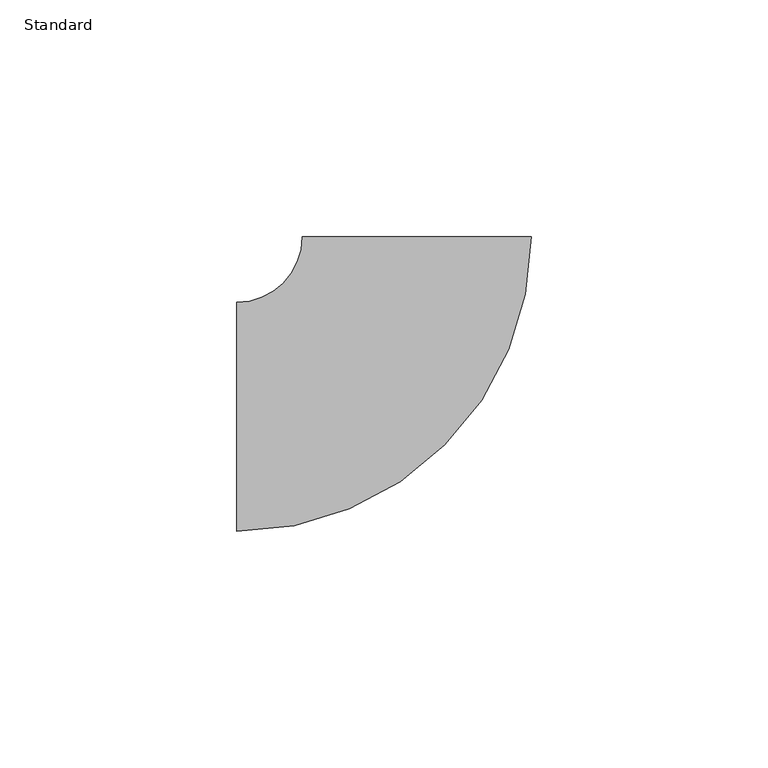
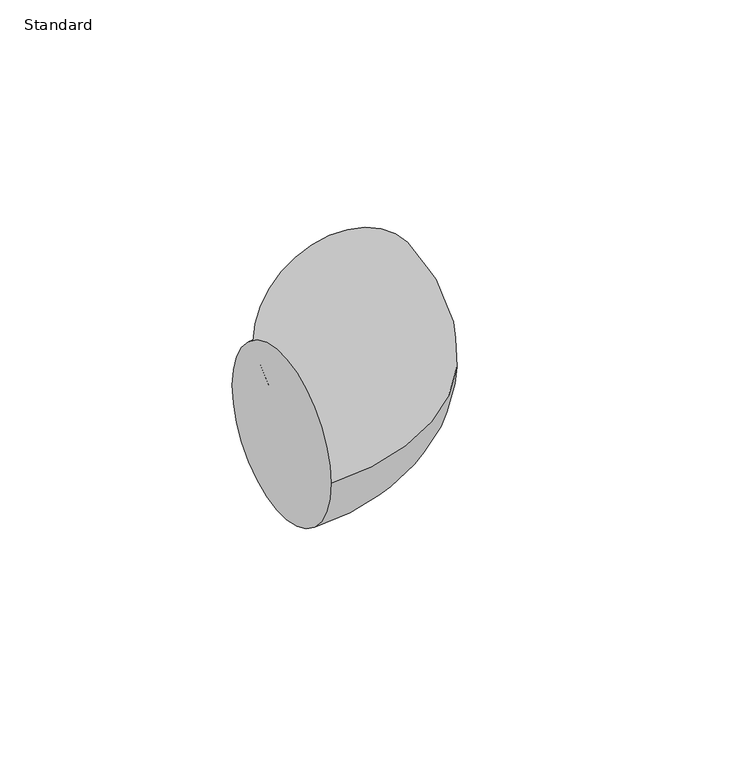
"""IFC4 building model written with IfcOpenShell, lengths in millimetres: pipe fitting geometry, Coude - Générique : Standard."""

from ifc_helpers import new_model, si_unit, point, frame, origin, place, context, project, spatial, circle_curve, ellipse_curve, trimmed, source, transform, mapped, element, save
from ifc_brep_helpers import plane_surface, revolved_surface, advanced_brep


def standard_ebbe6239(model_context):
    return source(origin(), model_context, "Body", "AdvancedBrep", [
        advanced_brep(
        [(-38.0, -24.15, 0.0), (-38.0, 24.15, 0.0), (24.1499939, 38.0000039, 0.0), (-24.1500061, 37.9999961, 0.0)],
        [
            (0, 1, circle_curve(frame((-38.0, 0.0, 0.0), z_axis=(-1.0, 0.0, 0.0), x_axis=(0.0, 1.0, 0.0)), 24.15)),
            (1, 0, circle_curve(frame((-38.0, 0.0, 0.0), z_axis=(-1.0, 0.0, 0.0), x_axis=(0.0, 1.0, 0.0)), 24.15)),
            (2, 3, circle_curve(frame((-6.1e-06, 38.0, 0.0), z_axis=(-1.6170228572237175e-07, 0.9999999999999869, 0.0), x_axis=(-0.9999999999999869, -1.6170228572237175e-07, 0.0)), 24.15)),
            (3, 2, circle_curve(frame((-6.1e-06, 38.0, 0.0), z_axis=(-1.6170228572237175e-07, 0.9999999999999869, 0.0), x_axis=(-0.9999999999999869, -1.6170228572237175e-07, 0.0)), 24.15)),
            (3, 1, circle_curve(frame((-38.0, 37.9999939, 0.0), z_axis=(0.0, 0.0, -1.0), x_axis=(0.0, -1.0, 0.0)), 13.8499939)),
            (0, 2, circle_curve(frame((-38.0, 37.9999939, 0.0), z_axis=(0.0, 0.0, 1.0), x_axis=(0.0, -1.0, 0.0)), 62.1499939)),
        ],
        [
            plane_surface(frame((-38.0, 0.0, 0.0), z_axis=(-1.0, 0.0, 0.0), x_axis=(0.0, 0.0, 1.0))),
            plane_surface(frame((-6.1e-06, 38.0, 0.0), z_axis=(-1.6170228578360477e-07, 0.9999999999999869, 0.0), x_axis=(0.0, 0.0, 1.0))),
            revolved_surface(trimmed(ellipse_curve(frame((-38.0, 0.0, 0.0), z_axis=(-1.0, 0.0, 0.0), x_axis=(0.0, 1.0, 0.0)), 24.15, 24.15), [point((-38.0, -24.15, 0.0))], [point((-38.0, 24.15, 0.0))], True, "CARTESIAN"), (-38.0, 37.9999939, 0.0), (0.0, 0.0, 1.0)),
            revolved_surface(trimmed(ellipse_curve(frame((-38.0, 0.0, 0.0), z_axis=(-1.0, 0.0, 0.0), x_axis=(0.0, 1.0, 0.0)), 24.15, 24.15), [point((-38.0, 24.15, 0.0))], [point((-38.0, -24.15, 0.0))], True, "CARTESIAN"), (-38.0, 37.9999939, 0.0), (0.0, 0.0, 1.0)),
        ],
        [
            (0, [[1, 2]]),
            (1, [[3, 4]]),
            (2, [[5, -1, 6, -4]]),
            (3, [[-6, -2, -5, -3]]),
        ],
    ),
    ])


if __name__ == "__main__":
    model = new_model("IFC4")
    model_context = context("Model", 3, world=origin())
    ifc_project = project(units=[si_unit("LENGTHUNIT", "METRE", prefix="MILLI")], contexts=[model_context])
    site = spatial("IfcSite", under=ifc_project)
    building = spatial("IfcBuilding", under=site)
    placement = place(None, origin())
    standard_shape = standard_ebbe6239(model_context)
    element("IfcPipeFitting", 1, ObjectType="Coude - Générique : Standard", at=placement, inside=building, context=model_context, shape_type="MappedRepresentation", body=[
        mapped(standard_shape, transform((0.0, 0.0, 0.0), x_axis=(1.0, 0.0, 0.0), y_axis=(0.0, 1.0, 0.0), z_axis=(0.0, 0.0, 1.0))),
    ])
    save(model, "model.ifc")
